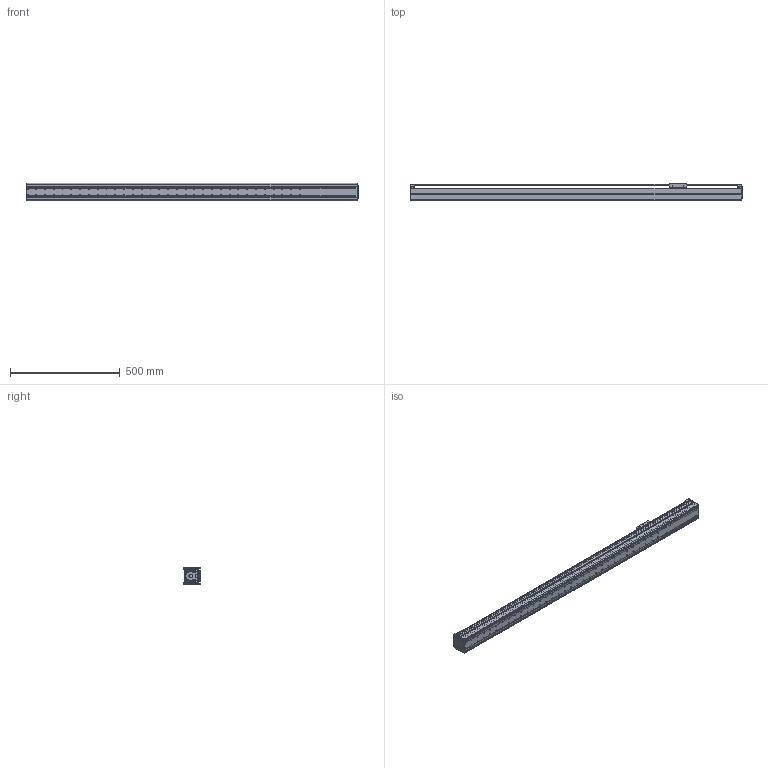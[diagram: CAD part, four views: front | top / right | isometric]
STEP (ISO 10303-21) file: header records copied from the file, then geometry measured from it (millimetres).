
FILE_DESCRIPTION((''),'2;1');
FILE_NAME('BE10E-ST-S_B-B5_IGS_PRT','2017-06-17T',(' '),(''),'PRO/ENGINEER BY PARAMETRIC TECHNOLOGY CORPORATION, 2015030','PRO/ENGINEER BY PARAMETRIC TECHNOLOGY CORPORATION, 2015030','');
FILE_SCHEMA(('CONFIG_CONTROL_DESIGN'));
Length unit declared in the file: millimetre
Products named in the file (1): BE10E-ST-S_B-B5_IGS_PRT
Bounding box: 1510 x 75 x 78 mm (x, y, z)
Volume: 1685916.6 mm3; surface area: 1107189.2 mm2
Topology: 2 solids, 102 shells, 1314 faces, 3545 edges, 2326 vertices
Faces by surface type: cylinder 696, plane 465, torus 64, sphere 42, cone 38, bspline 9
Entity records: 42991 total; most frequent: CARTESIAN_POINT 9039, DIRECTION 7380, ORIENTED_EDGE 6654, EDGE_CURVE 3521, AXIS2_PLACEMENT_3D 2833, VERTEX_POINT 2326, VECTOR 1714, LINE 1714
